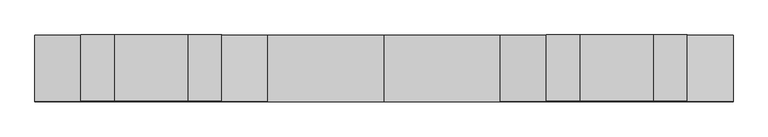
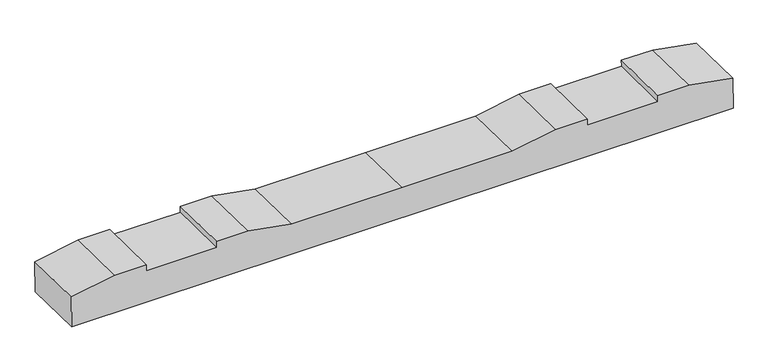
"""IFC4 building model written with IfcOpenShell, lengths in millimetres: proxy geometry, 轨枕-立面角度 : 轨枕-立面角度."""

from ifc_helpers import new_model, si_unit, frame, origin, place, context, project, spatial, polyline, outline, extrude, source, transform, mapped, element, save


def generic_models_5d0987d1(model_context):
    return source(origin(), model_context, "Body", "SweptSolid", [
        extrude(outline(polyline([(0.0, 0.0), (0.0, -100.0206889), (-137.8834664, -124.5), (-237.8834664, -124.5), (-237.8834664, -104.4999999), (-461.8834664, -104.4999999), (-461.8834664, -124.5), (-561.8834664, -124.5), (-699.8834664, -100.0), (-1049.8834664, -100.0), (-1399.8834664, -100.0), (-1537.8834664, -124.5), (-1637.8834664, -124.5), (-1637.8834664, -104.4999999), (-1861.8834664, -104.4999999), (-1861.8834664, -124.5), (-1961.8834664, -124.5), (-2099.7669328, -100.0206889), (-2099.7669328, 0.0), (0.0, 0.0)])), frame((-1049.8834664, 98.6573637, -105.7684952), z_axis=(0.0, -0.9999184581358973, 0.012770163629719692), x_axis=(-1.0, 0.0, 0.0)), (0.0, 0.0, 1.0), 200.0),
    ])


if __name__ == "__main__":
    model = new_model("IFC4")
    model_context = context("Model", 3, world=origin())
    ifc_project = project(units=[si_unit("LENGTHUNIT", "METRE", prefix="MILLI")], contexts=[model_context])
    site = spatial("IfcSite", under=ifc_project)
    building = spatial("IfcBuilding", under=site)
    placement = place(None, origin())
    generic_models_shape = generic_models_5d0987d1(model_context)
    element("IfcBuildingElementProxy", 1, Name="轨枕-立面角度 : 轨枕-立面角度", ObjectType="轨枕-立面角度 : 轨枕-立面角度", at=placement, inside=building, context=model_context, shape_type="MappedRepresentation", body=[
        mapped(generic_models_shape, transform((0.0, 0.0, 0.0), x_axis=(1.0, 0.0, 0.0), y_axis=(0.0, 1.0, 0.0), z_axis=(0.0, 0.0, 1.0))),
    ])
    save(model, "model.ifc")
